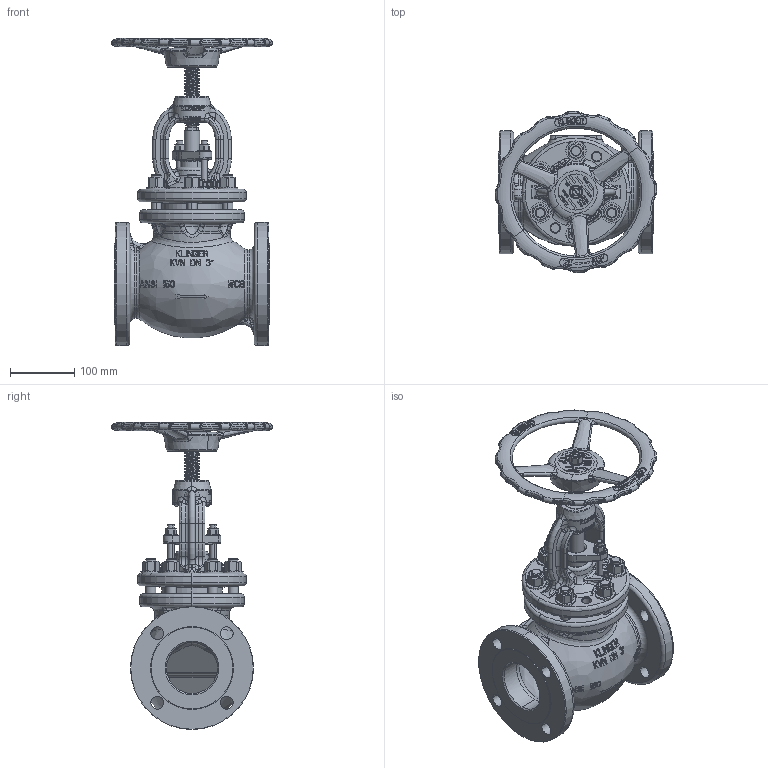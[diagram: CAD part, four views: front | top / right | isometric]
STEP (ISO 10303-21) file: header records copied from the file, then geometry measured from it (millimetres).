
FILE_DESCRIPTION((''),'2;1');
FILE_NAME('KVNFL-3-S-----C150PGG_SW0001','2026-09-28T13:15:34',('jeitlers'),('KLINGER'),'CREO PARAMETRIC BY PTC INC, 2025443','CREO PARAMETRIC BY PTC INC, 2025443','');
FILE_SCHEMA(('CONFIG_CONTROL_DESIGN'));
Products named in the file (1): KVNFL-3-S-----C150PGG_SW0001
Bounding box: 249.98 x 249.98 x 476.6 mm (x, y, z)
Volume: 4119067.4 mm3; surface area: 705737.9 mm2
Topology: 1 solids, 11 shells, 4766 faces, 12460 edges, 7846 vertices
Faces by surface type: plane 2641, bspline 795, cylinder 674, torus 349, cone 249, sphere 58
Entity records: 253585 total; most frequent: CARTESIAN_POINT 144956, ORIENTED_EDGE 24912, DIRECTION 19481, EDGE_CURVE 12456, VERTEX_POINT 7846, AXIS2_PLACEMENT_3D 6895, VECTOR 5691, LINE 5691
